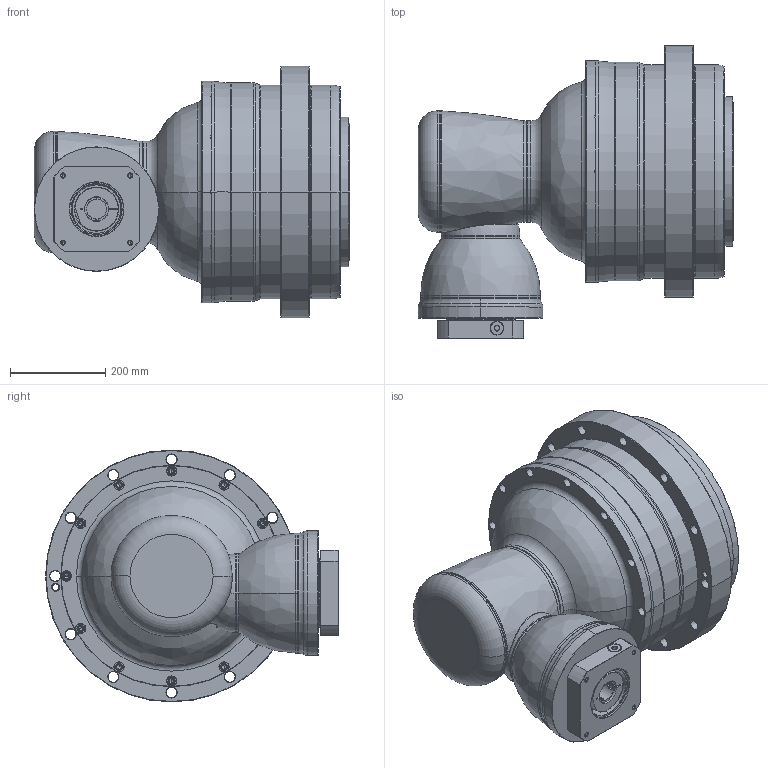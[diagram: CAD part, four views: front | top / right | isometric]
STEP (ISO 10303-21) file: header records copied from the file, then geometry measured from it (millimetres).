
FILE_DESCRIPTION((''),'2;1');
FILE_NAME('AHKA450_3ST_42-P0409A00101_ASM','2016-12-07T',('d01943'),(''),'PRO/ENGINEER BY PARAMETRIC TECHNOLOGY CORPORATION, 2008410','PRO/ENGINEER BY PARAMETRIC TECHNOLOGY CORPORATION, 2008410','');
FILE_SCHEMA(('CONFIG_CONTROL_DESIGN'));
Length unit declared in the file: millimetre
Products named in the file (12): P1008700002; P1821200001; P0276200003; P0357200003; P1315700001; P1007700001; P1318700201; P0409A00101; P0503A00012; P0912702201; 21711422019; AHKA450_3ST_42-P0409A00101_ASM
Assembly tree (11 placements, depth 2):
  AHKA450_3ST_42-P0409A00101_ASM
    P1008700002
    P1821200001
    P0276200003
    P0357200003
    P1315700001
    P1007700001
    P1318700201
    P0409A00101
    P0503A00012
    P0912702201
    21711422019
Bounding box: 663.5 x 616 x 530 mm (x, y, z)
Volume: 73797555.3 mm3; surface area: 2631564.7 mm2
Topology: 12 solids, 12 shells, 924 faces, 2044 edges, 1176 vertices
Faces by surface type: cone 332, cylinder 319, torus 122, plane 119, bspline 30, sphere 2
Entity records: 32765 total; most frequent: CARTESIAN_POINT 11718, DIRECTION 4860, ORIENTED_EDGE 3976, AXIS2_PLACEMENT_3D 2071, EDGE_CURVE 1988, VERTEX_POINT 1176, CIRCLE 1154, EDGE_LOOP 1104
